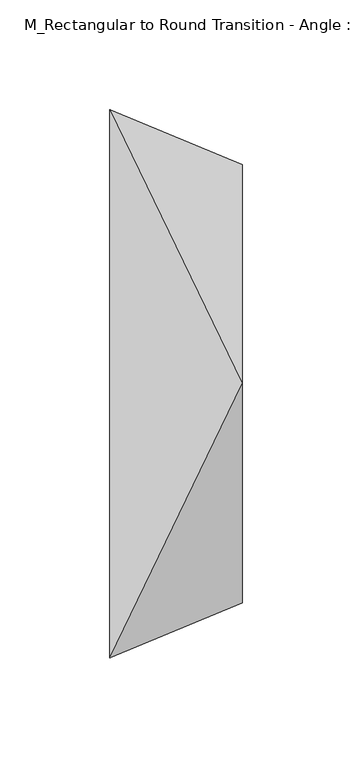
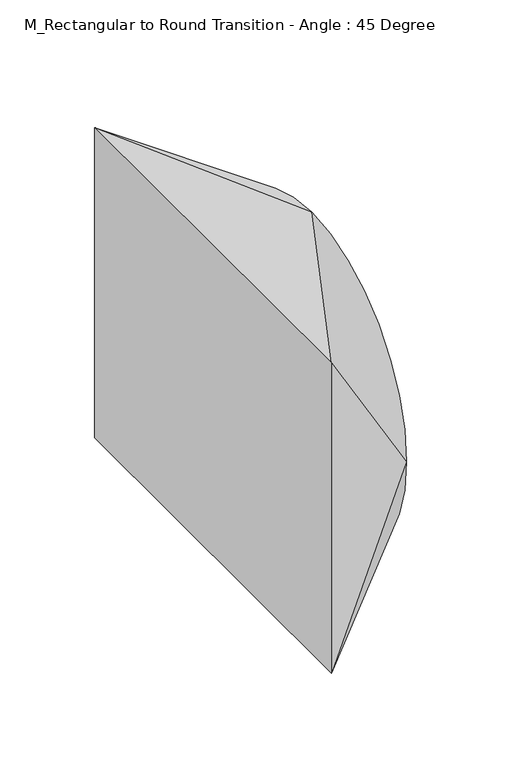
"""IFC4 building model written with IfcOpenShell, lengths in millimetres: duct fitting geometry, M_Rectangular to Round Transition - Angle : 45 Degree."""

import ifcopenshell
import ifcopenshell.guid

model = None  # the IFC model being written
_history = None  # IfcOwnerHistory: only IFC2X3 demands one
_inside = {}  # id of a spatial element -> (the spatial element, [elements in it])
_under = {}  # id of a project, library or spatial element -> (it, [spatial elements below it])
_declared = {}  # id of a project -> (the project, [libraries it declares])
_typed = {}  # id of a type object -> (the type object, [elements of that type])
_made_of = {}  # id of a material, layer set ... -> (it, [elements and type objects made of it])


def new_model(schema):
    """Start an empty IFC model of exactly this schema.

    Asked for "IFC4X3", IfcOpenShell would pick the latest addendum, in which some entities
    have other attributes; the version numbers below select the first issue.
    IFC2X3 requires an IfcOwnerHistory on every rooted entity: one is made here for all.
    """
    global model, _history
    if schema == "IFC4X3":
        model = ifcopenshell.file(schema_version=(4, 3, 0, 0))
    else:
        model = ifcopenshell.file(schema=schema)
    _inside.clear()
    _under.clear()
    _declared.clear()
    _typed.clear()
    _made_of.clear()
    _history = None
    if model.schema == "IFC2X3":
        org = make("IfcOrganization", Name="unknown")
        user = make(
            "IfcPersonAndOrganization",
            ThePerson=make("IfcPerson", FamilyName="unknown"),
            TheOrganization=org,
        )
        app = make(
            "IfcApplication",
            ApplicationDeveloper=org,
            Version="unknown",
            ApplicationFullName="unknown",
            ApplicationIdentifier="unknown",
        )
        _history = make(
            "IfcOwnerHistory",
            OwningUser=user,
            OwningApplication=app,
            ChangeAction="ADDED",
            CreationDate=0,
        )
    return model


def make(cls, **values):
    """One entity of the class cls with the attributes given. An attribute that is None is left unset."""
    return model.create_entity(
        cls, **{name: value for name, value in values.items() if value is not None}
    )


def rooted(cls, **values):
    """An entity with a GlobalId (a new one), such as an element, a storey or a relation."""
    return make(cls, GlobalId=ifcopenshell.guid.new(), OwnerHistory=_history, **values)


def si_unit(unit_type, name, prefix=None):
    """IfcSIUnit, for example si_unit("LENGTHUNIT", "METRE", prefix="MILLI")."""
    return make("IfcSIUnit", UnitType=unit_type, Prefix=prefix, Name=name)


def assignment(units):
    """IfcUnitAssignment: the units of a project."""
    return None if units is None else make("IfcUnitAssignment", Units=units)


def point(xyz):
    """IfcCartesianPoint."""
    return None if xyz is None else make("IfcCartesianPoint", Coordinates=xyz)


def direction(xyz):
    """IfcDirection."""
    return None if xyz is None else make("IfcDirection", DirectionRatios=xyz)


def frame(location, z_axis=None, x_axis=None):
    """IfcAxis2Placement3D, a coordinate frame: its origin and axes. An axis left out is left unset."""
    return make(
        "IfcAxis2Placement3D",
        Location=point(location),
        Axis=direction(z_axis),
        RefDirection=direction(x_axis),
    )


def origin():
    """The frame at (0, 0, 0) with its axes left unset."""
    return frame((0.0, 0.0, 0.0))


def place(relative_to, where):
    """IfcLocalPlacement: puts the frame where relative to a parent placement (None: the world)."""
    return make(
        "IfcLocalPlacement", PlacementRelTo=relative_to, RelativePlacement=where
    )


def context(
    kind, dimensions, precision=None, world=None, true_north=None, identifier=None
):
    """IfcGeometricRepresentationContext, for example the 3D "Model" context."""
    return make(
        "IfcGeometricRepresentationContext",
        ContextIdentifier=identifier,
        ContextType=kind,
        CoordinateSpaceDimension=dimensions,
        Precision=precision,
        WorldCoordinateSystem=world,
        TrueNorth=true_north,
    )


def project(units=None, contexts=None):
    """IfcProject with its units and contexts."""
    return rooted(
        "IfcProject",
        Name="project",
        RepresentationContexts=contexts,
        UnitsInContext=assignment(units),
    )


def spatial(cls, under=None, at=None, **own):
    """A site, building, storey or space (cls), placed at a placement, below another one or the project."""
    s = rooted(cls, ObjectPlacement=at, **own)
    if under is not None:
        _under.setdefault(under.id(), (under, []))[1].append(s)
    return s


def circle_curve(where, radius):
    """IfcCircle in the frame where."""
    return make("IfcCircle", Position=where, Radius=radius)


def shape(context_of_items, identifier, shape_type, items):
    """IfcShapeRepresentation: the items that make up one representation, for example the "Body"."""
    return make(
        "IfcShapeRepresentation",
        ContextOfItems=context_of_items,
        RepresentationIdentifier=identifier,
        RepresentationType=shape_type,
        Items=items,
    )


def source(mapping_origin, context_of_items, identifier, shape_type, items):
    """IfcRepresentationMap: a shape defined once, which mapped items show again and again."""
    return make(
        "IfcRepresentationMap",
        MappingOrigin=mapping_origin,
        MappedRepresentation=shape(context_of_items, identifier, shape_type, items),
    )


def transform(
    local_origin,
    x_axis=None,
    y_axis=None,
    z_axis=None,
    scale=None,
    scale2=None,
    scale3=None,
    uniform=True,
):
    """IfcCartesianTransformationOperator3D, or its non-uniform kind. x_axis, y_axis, z_axis: its Axis1, 2, 3."""
    if uniform:
        return make(
            "IfcCartesianTransformationOperator3D",
            Axis1=direction(x_axis),
            Axis2=direction(y_axis),
            LocalOrigin=point(local_origin),
            Scale=scale,
            Axis3=direction(z_axis),
        )
    return make(
        "IfcCartesianTransformationOperator3DnonUniform",
        Axis1=direction(x_axis),
        Axis2=direction(y_axis),
        LocalOrigin=point(local_origin),
        Scale=scale,
        Axis3=direction(z_axis),
        Scale2=scale2,
        Scale3=scale3,
    )


def mapped(mapping_source, mapping_target):
    """IfcMappedItem: shows the shape of a source again, moved by a transform."""
    return make(
        "IfcMappedItem", MappingSource=mapping_source, MappingTarget=mapping_target
    )


def made_of(thing, what):
    """Note that an element or type object is made of a material, layer set ...; save() writes the relation."""
    if what is not None:
        _made_of.setdefault(what.id(), (what, []))[1].append(thing)
    return thing


def element(
    cls,
    number,
    at=None,
    inside=None,
    cuts=None,
    type_object=None,
    material=None,
    context=None,
    identifier="Body",
    shape_type=None,
    held_by="IfcProductDefinitionShape",
    body=None,
    shapes=None,
    **own,
):
    """One element of the class cls, such as IfcWall. Its Tag is "e" and its number.

    at: its placement. inside: the storey or other place that contains it. cuts: it is an
    opening in that element (IfcRelVoidsElement). A single representation is given by context,
    identifier, shape_type and body (its items); several are given by shapes. held_by: the class
    of the entity that holds the representations. save() writes the other relations.
    """
    e = rooted(cls, Tag="e%d" % number, ObjectPlacement=at, **own)
    if body is not None:
        shapes = [shape(context, identifier, shape_type, body)]
    if shapes is not None:
        e.Representation = make(held_by, Representations=shapes)
    if inside is not None:
        _inside.setdefault(inside.id(), (inside, []))[1].append(e)
    if cuts is not None:
        rooted(
            "IfcRelVoidsElement", RelatingBuildingElement=cuts, RelatedOpeningElement=e
        )
    if type_object is not None:
        _typed.setdefault(type_object.id(), (type_object, []))[1].append(e)
    return made_of(e, material)


def aggregate(whole, parts):
    """IfcRelAggregates: a whole, such as a stair, and the parts it consists of."""
    return rooted("IfcRelAggregates", RelatingObject=whole, RelatedObjects=parts)


def save(model, path):
    """Write the relations noted so far, then the file.

    IfcRelAggregates (storeys below a building ...), IfcRelContainedInSpatialStructure (elements
    in a storey), IfcRelDefinesByType, IfcRelAssociatesMaterial and IfcRelDeclares: one each for
    every whole, place, type object, material and project.
    """
    for whole, parts in _under.values():
        aggregate(whole, parts)
    for where, things in _inside.values():
        rooted(
            "IfcRelContainedInSpatialStructure",
            RelatedElements=things,
            RelatingStructure=where,
        )
    for kind, things in _typed.values():
        rooted("IfcRelDefinesByType", RelatedObjects=things, RelatingType=kind)
    for what, things in _made_of.values():
        rooted("IfcRelAssociatesMaterial", RelatedObjects=things, RelatingMaterial=what)
    for by, libraries in _declared.values():
        rooted("IfcRelDeclares", RelatingContext=by, RelatedDefinitions=libraries)
    model.write(path)


def plane_surface(at):
    """IfcPlane: the flat surface through the origin of the frame at, square to its z axis."""
    return make("IfcPlane", Position=at)


def spline_surface(u_degree, v_degree, points, u_multiplicities, v_multiplicities, u_knots, v_knots, weights=None):
    """IfcBSplineSurfaceWithKnots; with weights, IfcRationalBSplineSurfaceWithKnots. points: one row for each step in u."""
    own = dict(
        UDegree=u_degree,
        VDegree=v_degree,
        ControlPointsList=[[point(p) for p in row] for row in points],
        SurfaceForm="UNSPECIFIED",
        UClosed=False,
        VClosed=False,
        SelfIntersect=False,
        UMultiplicities=u_multiplicities,
        VMultiplicities=v_multiplicities,
        UKnots=u_knots,
        VKnots=v_knots,
        KnotSpec="UNSPECIFIED",
    )
    if weights is None:
        return make("IfcBSplineSurfaceWithKnots", **own)
    return make("IfcRationalBSplineSurfaceWithKnots", WeightsData=weights, **own)


def advanced_brep(points, edges, surfaces, faces):
    """IfcAdvancedBrep: a solid bounded by faces that lie on surfaces and meet in shared edges.

    An edge is (start, end): straight between two places in points (the first is 0);
    or (start, end, curve); or (start, end, curve, False) where it runs against its curve.
    A face is (place in surfaces, loops), or (place, loops, False) where it looks against
    its surface's normal. A loop lists edges by number (the first is 1), with a minus sign
    where the edge is run from its end to its start. The first loop is the outer one.
    """
    corners = [point(p) for p in points]
    vertices = [make("IfcVertexPoint", VertexGeometry=c) for c in corners]
    made = []
    for start, end, *more in edges:
        made.append(
            make(
                "IfcEdgeCurve",
                EdgeStart=vertices[start],
                EdgeEnd=vertices[end],
                EdgeGeometry=more[0] if more else make("IfcPolyline", Points=[corners[start], corners[end]]),
                SameSense=more[1] if len(more) > 1 else True,
            )
        )
    hull = []
    for where, loops, *sense in faces:
        bounds = []
        for j, loop in enumerate(loops):
            ring = [make("IfcOrientedEdge", EdgeElement=made[abs(k) - 1], Orientation=k > 0) for k in loop]
            bounds.append(
                make(
                    "IfcFaceOuterBound" if j == 0 else "IfcFaceBound",
                    Bound=make("IfcEdgeLoop", EdgeList=ring),
                    Orientation=True,
                )
            )
        hull.append(make("IfcAdvancedFace", Bounds=bounds, FaceSurface=surfaces[where], SameSense=sense[0] if sense else True))
    return make("IfcAdvancedBrep", Outer=make("IfcClosedShell", CfsFaces=hull))


def m_rectangular_to_round_transition_angle_45_degree_9bcfcd89(model_context):
    return source(origin(), model_context, "Body", "AdvancedBrep", [
        advanced_brep(
        [(0.0, -125.0, -100.0), (0.0, -125.0, 100.0), (0.0, 125.0, 100.0), (0.0, 125.0, -100.0), (60.3553391, -100.0, 0.0), (60.3553391, 0.0, -100.0), (60.3553391, 100.0, 0.0), (60.3553391, 0.0, 100.0)],
        [
            (0, 1),
            (1, 2),
            (2, 3),
            (3, 0),
            (4, 5, circle_curve(frame((60.3553391, 0.0, 0.0), z_axis=(1.0, 0.0, 0.0), x_axis=(0.0, -1.0, 0.0)), 100.0)),
            (5, 6, circle_curve(frame((60.3553391, 0.0, 0.0), z_axis=(1.0, 0.0, 0.0), x_axis=(0.0, -1.0, 0.0)), 100.0)),
            (6, 7, circle_curve(frame((60.3553391, 0.0, 0.0), z_axis=(1.0, 0.0, 0.0), x_axis=(0.0, -1.0, 0.0)), 100.0)),
            (7, 4, circle_curve(frame((60.3553391, 0.0, 0.0), z_axis=(1.0, 0.0, 0.0), x_axis=(0.0, -1.0, 0.0)), 100.0)),
            (0, 4),
            (4, 1),
            (7, 1),
            (7, 2),
            (6, 2),
            (6, 3),
            (5, 3),
            (5, 0),
        ],
        [
            plane_surface(frame((0.0, 0.0, 0.0), z_axis=(-1.0, 0.0, 0.0), x_axis=(0.0, 1.0, 0.0))),
            plane_surface(frame((60.3553391, 0.0, 0.0), z_axis=(1.0, 0.0, 0.0), x_axis=(0.0, 1.0, 0.0))),
            plane_surface(frame((60.3553391, -100.0, 0.0), z_axis=(0.3826834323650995, -0.9238795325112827, 0.0), x_axis=(0.0, 0.0, 1.0))),
            spline_surface(2, 1, [[(60.3553391, -100.0, 0.0), (0.0, -125.0, 100.0)], [(60.3553391, -100.0, 100.0), (0.0, -125.0, 100.0)], [(60.3553391, 0.0, 100.0), (0.0, -125.0, 100.0)]], [3, 3], [2, 2], [0.0, 1.0], [0.0, 1.0], weights=[[1.0, 1.0], [0.7071067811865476, 0.7071067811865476], [1.0, 1.0]]),
            plane_surface(frame((60.3553391, 0.0, 100.0), z_axis=(0.0, 0.0, 1.0), x_axis=(0.0, 1.0, 0.0))),
            spline_surface(2, 1, [[(60.3553391, 0.0, 100.0), (0.0, 125.0, 100.0)], [(60.3553391, 100.0, 100.0), (0.0, 125.0, 100.0)], [(60.3553391, 100.0, 0.0), (0.0, 125.0, 100.0)]], [3, 3], [2, 2], [0.0, 1.0], [0.0, 1.0], weights=[[1.0, 1.0], [0.7071067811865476, 0.7071067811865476], [1.0, 1.0]]),
            plane_surface(frame((60.3553391, 100.0, 0.0), z_axis=(0.38268343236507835, 0.9238795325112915, 0.0), x_axis=(0.0, 0.0, -1.0))),
            spline_surface(2, 1, [[(60.3553391, 100.0, 0.0), (0.0, 125.0, -100.0)], [(60.3553391, 100.0, -100.0), (0.0, 125.0, -100.0)], [(60.3553391, 0.0, -100.0), (0.0, 125.0, -100.0)]], [3, 3], [2, 2], [0.0, 1.0], [0.0, 1.0], weights=[[1.0, 1.0], [0.7071067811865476, 0.7071067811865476], [1.0, 1.0]]),
            plane_surface(frame((60.3553391, 0.0, -100.0), z_axis=(0.0, 0.0, -1.0), x_axis=(0.0, -1.0, 0.0))),
            spline_surface(2, 1, [[(60.3553391, 0.0, -100.0), (0.0, -125.0, -100.0)], [(60.3553391, -100.0, -100.0), (0.0, -125.0, -100.0)], [(60.3553391, -100.0, 0.0), (0.0, -125.0, -100.0)]], [3, 3], [2, 2], [0.0, 1.0], [0.0, 1.0], weights=[[1.0, 1.0], [0.7071067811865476, 0.7071067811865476], [1.0, 1.0]]),
        ],
        [
            (0, [[1, 2, 3, 4]]),
            (1, [[5, 6, 7, 8]]),
            (2, [[-1, 9, 10]]),
            (3, [[-8, 11, -10]]),
            (4, [[-2, -11, 12]]),
            (5, [[-7, 13, -12]]),
            (6, [[-3, -13, 14]]),
            (7, [[-6, 15, -14]]),
            (8, [[-4, -15, 16]]),
            (9, [[-5, -9, -16]]),
        ],
    ),
        advanced_brep(
        [(0.0, -125.0, -100.0), (0.0, -125.0, 100.0), (0.0, 125.0, 100.0), (0.0, 125.0, -100.0), (60.3553391, -100.0, 0.0), (60.3553391, 0.0, -100.0), (60.3553391, 100.0, 0.0), (60.3553391, 0.0, 100.0)],
        [
            (0, 1),
            (1, 2),
            (2, 3),
            (3, 0),
            (4, 5, circle_curve(frame((60.3553391, 0.0, 0.0), z_axis=(1.0, 0.0, 0.0), x_axis=(0.0, -1.0, 0.0)), 100.0)),
            (5, 6, circle_curve(frame((60.3553391, 0.0, 0.0), z_axis=(1.0, 0.0, 0.0), x_axis=(0.0, -1.0, 0.0)), 100.0)),
            (6, 7, circle_curve(frame((60.3553391, 0.0, 0.0), z_axis=(1.0, 0.0, 0.0), x_axis=(0.0, -1.0, 0.0)), 100.0)),
            (7, 4, circle_curve(frame((60.3553391, 0.0, 0.0), z_axis=(1.0, 0.0, 0.0), x_axis=(0.0, -1.0, 0.0)), 100.0)),
            (0, 4),
            (4, 1),
            (7, 1),
            (7, 2),
            (6, 2),
            (6, 3),
            (5, 3),
            (5, 0),
        ],
        [
            plane_surface(frame((0.0, 0.0, 0.0), z_axis=(-1.0, 0.0, 0.0), x_axis=(0.0, 1.0, 0.0))),
            plane_surface(frame((60.3553391, 0.0, 0.0), z_axis=(1.0, 0.0, 0.0), x_axis=(0.0, 1.0, 0.0))),
            plane_surface(frame((60.3553391, -100.0, 0.0), z_axis=(0.3826834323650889, -0.9238795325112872, 0.0), x_axis=(0.0, 0.0, 1.0))),
            spline_surface(2, 1, [[(60.3553391, -100.0, 0.0), (0.0, -125.0, 100.0)], [(60.3553391, -100.0, 100.0), (0.0, -125.0, 100.0)], [(60.3553391, 0.0, 100.0), (0.0, -125.0, 100.0)]], [3, 3], [2, 2], [0.0, 1.0], [0.0, 1.0], weights=[[1.0, 1.0], [0.7071067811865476, 0.7071067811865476], [1.0, 1.0]]),
            plane_surface(frame((60.3553391, 0.0, 100.0), z_axis=(0.0, 0.0, 1.0), x_axis=(0.0, 1.0, 0.0))),
            spline_surface(2, 1, [[(60.3553391, 0.0, 100.0), (0.0, 125.0, 100.0)], [(60.3553391, 100.0, 100.0), (0.0, 125.0, 100.0)], [(60.3553391, 100.0, 0.0), (0.0, 125.0, 100.0)]], [3, 3], [2, 2], [0.0, 1.0], [0.0, 1.0], weights=[[1.0, 1.0], [0.7071067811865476, 0.7071067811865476], [1.0, 1.0]]),
            plane_surface(frame((60.3553391, 100.0, 0.0), z_axis=(0.38268343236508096, 0.9238795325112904, 0.0), x_axis=(0.0, 0.0, -1.0))),
            spline_surface(2, 1, [[(60.3553391, 100.0, 0.0), (0.0, 125.0, -100.0)], [(60.3553391, 100.0, -100.0), (0.0, 125.0, -100.0)], [(60.3553391, 0.0, -100.0), (0.0, 125.0, -100.0)]], [3, 3], [2, 2], [0.0, 1.0], [0.0, 1.0], weights=[[1.0, 1.0], [0.7071067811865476, 0.7071067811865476], [1.0, 1.0]]),
            plane_surface(frame((60.3553391, 0.0, -100.0), z_axis=(0.0, 0.0, -1.0), x_axis=(0.0, -1.0, 0.0))),
            spline_surface(2, 1, [[(60.3553391, 0.0, -100.0), (0.0, -125.0, -100.0)], [(60.3553391, -100.0, -100.0), (0.0, -125.0, -100.0)], [(60.3553391, -100.0, 0.0), (0.0, -125.0, -100.0)]], [3, 3], [2, 2], [0.0, 1.0], [0.0, 1.0], weights=[[1.0, 1.0], [0.7071067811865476, 0.7071067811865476], [1.0, 1.0]]),
        ],
        [
            (0, [[1, 2, 3, 4]]),
            (1, [[5, 6, 7, 8]]),
            (2, [[-1, 9, 10]]),
            (3, [[-8, 11, -10]]),
            (4, [[-2, -11, 12]]),
            (5, [[-7, 13, -12]]),
            (6, [[-3, -13, 14]]),
            (7, [[-6, 15, -14]]),
            (8, [[-4, -15, 16]]),
            (9, [[-5, -9, -16]]),
        ],
    ),
        advanced_brep(
        [(60.3553391, 0.0, 100.0), (60.3553391, -100.0, 0.0), (60.3553391, 0.0, -100.0), (60.3553391, 100.0, 0.0), (0.0, -125.0, 100.0), (0.0, 125.0, 100.0), (0.0, 125.0, -100.0), (0.0, -125.0, -100.0)],
        [
            (0, 1, circle_curve(frame((60.3553391, 0.0, 0.0), z_axis=(1.0, 0.0, 0.0), x_axis=(0.0, 1.0, 0.0)), 100.0)),
            (1, 2, circle_curve(frame((60.3553391, 0.0, 0.0), z_axis=(1.0, 0.0, 0.0), x_axis=(0.0, 1.0, 0.0)), 100.0)),
            (2, 3, circle_curve(frame((60.3553391, 0.0, 0.0), z_axis=(1.0, 0.0, 0.0), x_axis=(0.0, 1.0, 0.0)), 100.0)),
            (3, 0, circle_curve(frame((60.3553391, 0.0, 0.0), z_axis=(1.0, 0.0, 0.0), x_axis=(0.0, 1.0, 0.0)), 100.0)),
            (4, 5),
            (5, 6),
            (6, 7),
            (7, 4),
            (0, 4),
            (4, 1),
            (7, 1),
            (7, 2),
            (6, 2),
            (6, 3),
            (5, 3),
            (5, 0),
        ],
        [
            plane_surface(frame((60.3553391, 0.0, 0.0), z_axis=(1.0, 0.0, 0.0), x_axis=(0.0, 0.0, -1.0))),
            plane_surface(frame((0.0, 0.0, 0.0), z_axis=(-1.0, 0.0, 0.0), x_axis=(0.0, 0.0, -1.0))),
            spline_surface(2, 1, [[(0.0, -125.0, 100.0), (60.3553391, 0.0, 100.0)], [(0.0, -125.0, 100.0), (60.3553391, -100.0, 100.0)], [(0.0, -125.0, 100.0), (60.3553391, -100.0, 0.0)]], [3, 3], [2, 2], [0.0, 1.0], [0.0, 1.0], weights=[[1.0, 1.0], [0.7071067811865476, 0.7071067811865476], [1.0, 1.0]]),
            plane_surface(frame((0.0, -125.0, 0.0), z_axis=(0.3826834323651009, -0.9238795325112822, 0.0), x_axis=(0.0, 0.0, -1.0))),
            spline_surface(2, 1, [[(0.0, -125.0, -100.0), (60.3553391, -100.0, 0.0)], [(0.0, -125.0, -100.0), (60.3553391, -100.0, -100.0)], [(0.0, -125.0, -100.0), (60.3553391, 0.0, -100.0)]], [3, 3], [2, 2], [0.0, 1.0], [0.0, 1.0], weights=[[1.0, 1.0], [0.7071067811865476, 0.7071067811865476], [1.0, 1.0]]),
            plane_surface(frame((0.0, 0.0, -100.0), z_axis=(0.0, 0.0, -1.0), x_axis=(0.0, 1.0, 0.0))),
            spline_surface(2, 1, [[(0.0, 125.0, -100.0), (60.3553391, 0.0, -100.0)], [(0.0, 125.0, -100.0), (60.3553391, 100.0, -100.0)], [(0.0, 125.0, -100.0), (60.3553391, 100.0, 0.0)]], [3, 3], [2, 2], [0.0, 1.0], [0.0, 1.0], weights=[[1.0, 1.0], [0.7071067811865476, 0.7071067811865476], [1.0, 1.0]]),
            plane_surface(frame((0.0, 125.0, 0.0), z_axis=(0.38268343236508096, 0.9238795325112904, 0.0), x_axis=(0.0, 0.0, 1.0))),
            spline_surface(2, 1, [[(0.0, 125.0, 100.0), (60.3553391, 100.0, 0.0)], [(0.0, 125.0, 100.0), (60.3553391, 100.0, 100.0)], [(0.0, 125.0, 100.0), (60.3553391, 0.0, 100.0)]], [3, 3], [2, 2], [0.0, 1.0], [0.0, 1.0], weights=[[1.0, 1.0], [0.7071067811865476, 0.7071067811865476], [1.0, 1.0]]),
            plane_surface(frame((0.0, 0.0, 100.0), z_axis=(0.0, 0.0, 1.0), x_axis=(0.0, -1.0, 0.0))),
        ],
        [
            (0, [[1, 2, 3, 4]]),
            (1, [[5, 6, 7, 8]]),
            (2, [[-1, 9, 10]]),
            (3, [[-8, 11, -10]]),
            (4, [[-2, -11, 12]]),
            (5, [[-7, 13, -12]]),
            (6, [[-3, -13, 14]]),
            (7, [[-6, 15, -14]]),
            (8, [[-4, -15, 16]]),
            (9, [[-5, -9, -16]]),
        ],
    ),
    ])


if __name__ == "__main__":
    model = new_model("IFC4")
    model_context = context("Model", 3, world=origin())
    ifc_project = project(units=[si_unit("LENGTHUNIT", "METRE", prefix="MILLI")], contexts=[model_context])
    site = spatial("IfcSite", under=ifc_project)
    building = spatial("IfcBuilding", under=site)
    placement = place(None, origin())
    m_rectangular_to_round_transition_angle_45_degree_shape = m_rectangular_to_round_transition_angle_45_degree_9bcfcd89(model_context)
    element("IfcDuctFitting", 1, ObjectType="M_Rectangular to Round Transition - Angle : 45 Degree", at=placement, inside=building, context=model_context, shape_type="MappedRepresentation", body=[
        mapped(m_rectangular_to_round_transition_angle_45_degree_shape, transform((0.0, 0.0, 0.0), x_axis=(1.0, 0.0, 0.0), y_axis=(0.0, 1.0, 0.0), z_axis=(0.0, 0.0, 1.0))),
    ])
    save(model, "model.ifc")
